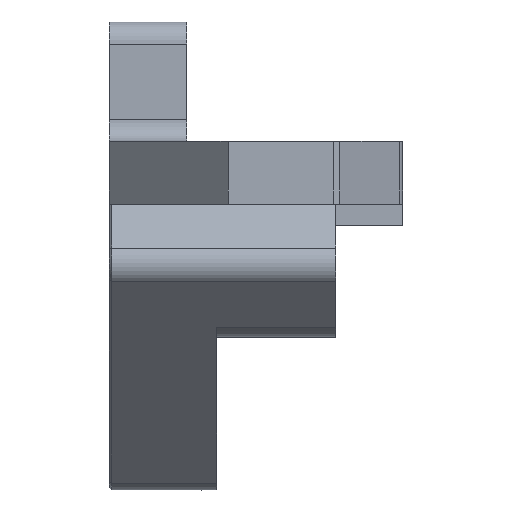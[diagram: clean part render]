
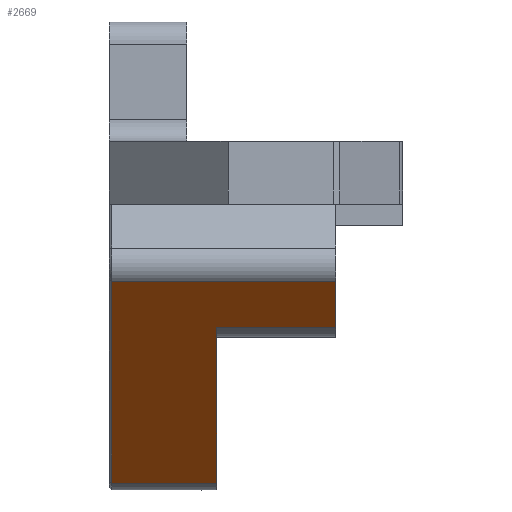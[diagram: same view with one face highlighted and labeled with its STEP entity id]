
A CAD part, left-side view. The second image highlights one B-rep face of the part: STEP entity #2669.
In plain terms, the highlighted planar face has unit normal (-0.707, 0, -0.707).
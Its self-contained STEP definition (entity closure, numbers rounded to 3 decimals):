
#289=LINE('',#5362,#521);
#311=LINE('',#5419,#543);
#315=LINE('',#5447,#547);
#317=LINE('',#5453,#549);
#318=LINE('',#5455,#550);
#319=LINE('',#5456,#551);
#521=VECTOR('',#3248,10.);
#543=VECTOR('',#3304,10.);
#547=VECTOR('',#3322,10.);
#549=VECTOR('',#3328,10.);
#550=VECTOR('',#3329,10.);
#551=VECTOR('',#3330,10.);
#686=PLANE('',#2862);
#789=FACE_OUTER_BOUND('',#941,.T.);
#941=EDGE_LOOP('',(#2173,#2174,#2175,#2176,#2177,#2178));
#1240=VERTEX_POINT('',#5356);
#1242=VERTEX_POINT('',#5360);
#1260=VERTEX_POINT('',#5417);
#1267=VERTEX_POINT('',#5446);
#1269=VERTEX_POINT('',#5452);
#1270=VERTEX_POINT('',#5454);
#1560=EDGE_CURVE('',#1242,#1240,#289,.T.);
#1588=EDGE_CURVE('',#1242,#1260,#311,.T.);
#1598=EDGE_CURVE('',#1267,#1260,#315,.T.);
#1601=EDGE_CURVE('',#1240,#1269,#317,.T.);
#1602=EDGE_CURVE('',#1270,#1267,#318,.T.);
#1603=EDGE_CURVE('',#1269,#1270,#319,.T.);
#2173=ORIENTED_EDGE('',*,*,#1601,.F.);
#2174=ORIENTED_EDGE('',*,*,#1560,.F.);
#2175=ORIENTED_EDGE('',*,*,#1588,.T.);
#2176=ORIENTED_EDGE('',*,*,#1598,.F.);
#2177=ORIENTED_EDGE('',*,*,#1602,.F.);
#2178=ORIENTED_EDGE('',*,*,#1603,.F.);
#2669=ADVANCED_FACE('',(#789),#686,.T.);
#2862=AXIS2_PLACEMENT_3D('',#5451,#3326,#3327);
#3248=DIRECTION('',(0.,1.,0.));
#3304=DIRECTION('',(-0.707,0.,0.707));
#3322=DIRECTION('',(0.,1.,0.));
#3326=DIRECTION('center_axis',(-0.707,0.,
-0.707));
#3327=DIRECTION('ref_axis',(0.707,0.,-0.707));
#3328=DIRECTION('',(-0.707,0.,0.707));
#3329=DIRECTION('',(0.707,0.,-0.707));
#3330=DIRECTION('',(0.,-1.,0.));
#5356=CARTESIAN_POINT('',(22.898,52.008,-1.887));
#5360=CARTESIAN_POINT('',(22.898,42.458,-1.887));
#5362=CARTESIAN_POINT('',(22.898,50.261,-1.887));
#5417=CARTESIAN_POINT('',(8.775,42.458,12.237));
#5419=CARTESIAN_POINT('',(6.651,42.458,14.36));
#5446=CARTESIAN_POINT('',(8.775,31.62,12.237));
#5447=CARTESIAN_POINT('',(8.775,46.636,12.237));
#5451=CARTESIAN_POINT('Origin',(4.55,51.908,16.462));
#5452=CARTESIAN_POINT('',(4.55,52.008,16.462));
#5453=CARTESIAN_POINT('',(10.867,52.008,10.145));
#5454=CARTESIAN_POINT('',(4.55,31.62,16.462));
#5455=CARTESIAN_POINT('',(10.867,31.62,10.145));
#5456=CARTESIAN_POINT('',(4.55,40.858,16.462));
